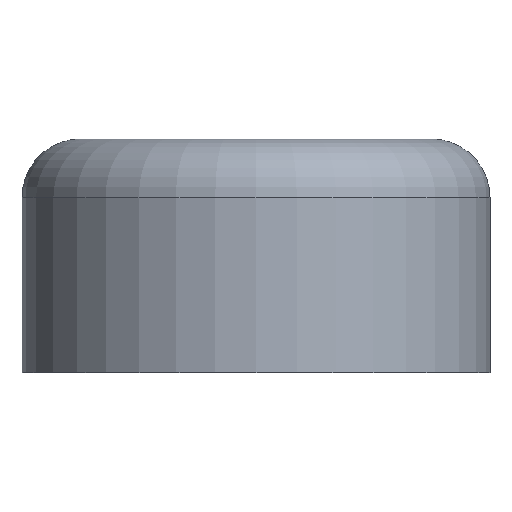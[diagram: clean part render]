
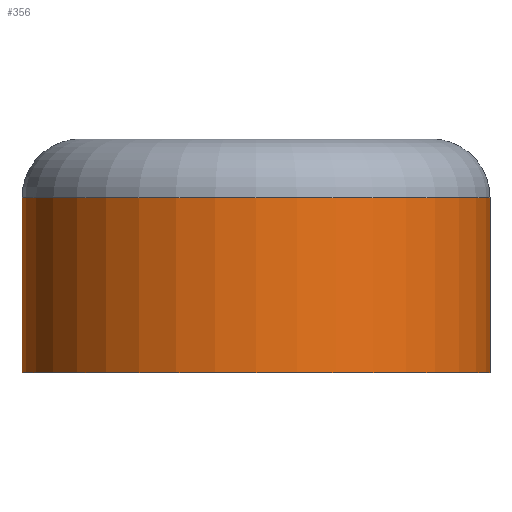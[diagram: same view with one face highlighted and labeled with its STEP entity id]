
A CAD part, left-side view. The second image highlights one B-rep face of the part: STEP entity #356.
In plain terms, the highlighted cylindrical face has radius 8 mm (diameter 16 mm), a partial arc.
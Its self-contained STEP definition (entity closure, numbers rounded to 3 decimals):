
#6 = DIRECTION ( 'NONE',  ( 1., 0., 0. ) ) ;
#36 = AXIS2_PLACEMENT_3D ( 'NONE', #256, #476, #42 ) ;
#42 = DIRECTION ( 'NONE',  ( 1., 0., 0. ) ) ;
#50 = CARTESIAN_POINT ( 'NONE',  ( -12.5, -8., 6. ) ) ;
#51 = EDGE_CURVE ( 'NONE', #54, #378, #203, .T. ) ;
#54 = VERTEX_POINT ( 'NONE', #50 ) ;
#56 = ORIENTED_EDGE ( 'NONE', *, *, #180, .T. ) ;
#68 = CIRCLE ( 'NONE', #269, 8. ) ;
#83 = DIRECTION ( 'NONE',  ( 0., 0., -1. ) ) ;
#92 = CARTESIAN_POINT ( 'NONE',  ( -12.5, 8., 8. ) ) ;
#148 = AXIS2_PLACEMENT_3D ( 'NONE', #234, #83, #282 ) ;
#154 = CARTESIAN_POINT ( 'NONE',  ( -12.5, 8., 6. ) ) ;
#180 = EDGE_CURVE ( 'NONE', #445, #378, #68, .T. ) ;
#201 = CARTESIAN_POINT ( 'NONE',  ( -12.5, -8., 0. ) ) ;
#203 = LINE ( 'NONE', #579, #366 ) ;
#210 = EDGE_CURVE ( 'NONE', #54, #510, #245, .T. ) ;
#217 = ORIENTED_EDGE ( 'NONE', *, *, #51, .F. ) ;
#234 = CARTESIAN_POINT ( 'NONE',  ( -12.5, 0., 8. ) ) ;
#243 = DIRECTION ( 'NONE',  ( 0., 0., -1. ) ) ;
#245 = CIRCLE ( 'NONE', #36, 8. ) ;
#256 = CARTESIAN_POINT ( 'NONE',  ( -12.5, 0., 6. ) ) ;
#269 = AXIS2_PLACEMENT_3D ( 'NONE', #343, #581, #6 ) ;
#282 = DIRECTION ( 'NONE',  ( -1., 0., 0. ) ) ;
#334 = FACE_OUTER_BOUND ( 'NONE', #397, .T. ) ;
#343 = CARTESIAN_POINT ( 'NONE',  ( -12.5, 0., 0. ) ) ;
#356 = ADVANCED_FACE ( 'NONE', ( #334 ), #374, .T. ) ;
#366 = VECTOR ( 'NONE', #532, 1000. ) ;
#374 = CYLINDRICAL_SURFACE ( 'NONE', #148, 8. ) ;
#378 = VERTEX_POINT ( 'NONE', #201 ) ;
#379 = LINE ( 'NONE', #92, #529 ) ;
#391 = EDGE_CURVE ( 'NONE', #510, #445, #379, .T. ) ;
#397 = EDGE_LOOP ( 'NONE', ( #217, #496, #583, #56 ) ) ;
#445 = VERTEX_POINT ( 'NONE', #577 ) ;
#476 = DIRECTION ( 'NONE',  ( 0., 0., -1. ) ) ;
#496 = ORIENTED_EDGE ( 'NONE', *, *, #210, .T. ) ;
#510 = VERTEX_POINT ( 'NONE', #154 ) ;
#529 = VECTOR ( 'NONE', #243, 1000. ) ;
#532 = DIRECTION ( 'NONE',  ( 0., 0., -1. ) ) ;
#577 = CARTESIAN_POINT ( 'NONE',  ( -12.5, 8., 0. ) ) ;
#579 = CARTESIAN_POINT ( 'NONE',  ( -12.5, -8., 8. ) ) ;
#581 = DIRECTION ( 'NONE',  ( 0., 0., 1. ) ) ;
#583 = ORIENTED_EDGE ( 'NONE', *, *, #391, .T. ) ;
